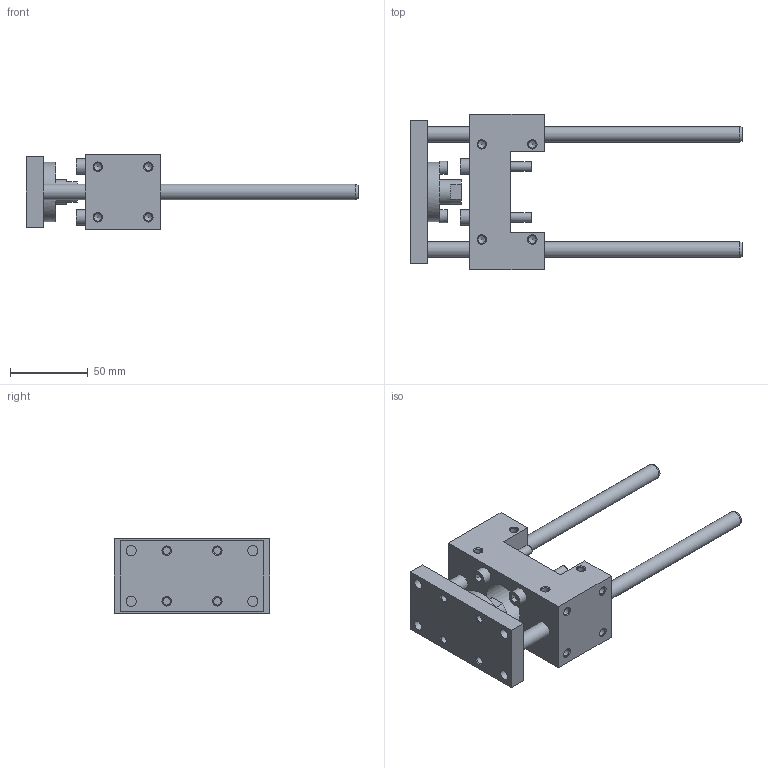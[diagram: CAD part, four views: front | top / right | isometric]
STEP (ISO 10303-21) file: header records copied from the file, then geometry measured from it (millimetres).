
FILE_DESCRIPTION( ( 'STEP AP214' ), '1' );
FILE_NAME( 'U:/Etudes/Top Solid/BIBLIO 3D AVM/TOP/PNEUMATIQUE/GUIDAGES/Type 34 (en U)/_Légère/3442130.step', '2005-05-27T12:19:39', ( ' ' ), ( ' ' ), 'XStep 1.0', ' ', ' ' );
FILE_SCHEMA( ( 'automotive_design' ) );
Length unit declared in the file: metre
Products named in the file (2): 1; 2
Bounding box: 213 x 100 x 48 mm (x, y, z)
Volume: 233420.7 mm3; surface area: 66203.4 mm2
Topology: 2 solids, 5 shells, 207 faces, 500 edges, 327 vertices
Faces by surface type: plane 90, cylinder 72, cone 45
Full cylindrical faces by diameter (mm): 4.134 x4, 4.918 x28, 5 x4, 5.5 x2, 6 x8, 6.5 x8, 8.5 x2, 8.647 x2, 10 x8, 16 x1, 18 x1, 22.8 x1, 25 x1, 30 x1, 38 x1
Entity records: 6811 total; most frequent: CARTESIAN_POINT 993, DIRECTION 882, ORIENTED_EDGE 628, EDGE_LOOP 376, AXIS2_PLACEMENT_3D 365, EDGE_CURVE 314, FACE_OUTER_BOUND 279, VERTEX_POINT 272
